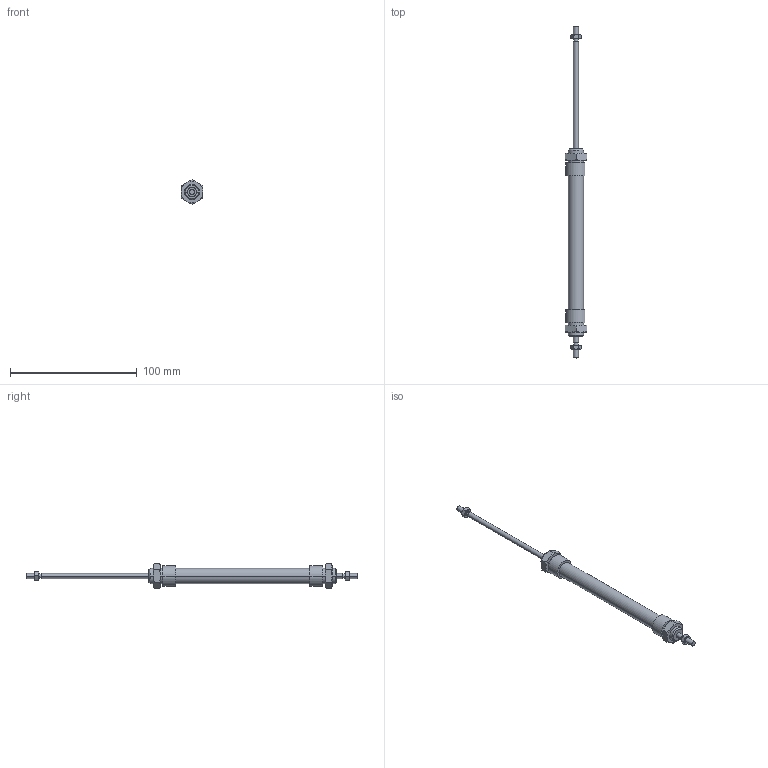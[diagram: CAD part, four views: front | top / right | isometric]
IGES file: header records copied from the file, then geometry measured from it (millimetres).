
Global section: file name: No Iges File Name specified; native system: AutoDesk Inventor R6.0; preprocessor: AutoDesk Inventor Iges Exporter R6.0; author: No Author specified; organization: No Organization specified; date: 20030403.071906; units: millimetre
Bounding box: 17 x 262 x 19.63 mm (x, y, z)
Volume: 21516.1 mm3; surface area: 13465.7 mm2
Topology: 6 solids, 6 shells, 172 faces, 374 edges, 220 vertices
Faces by surface type: cone 68, plane 46, bspline 32, cylinder 20, revolution 6
